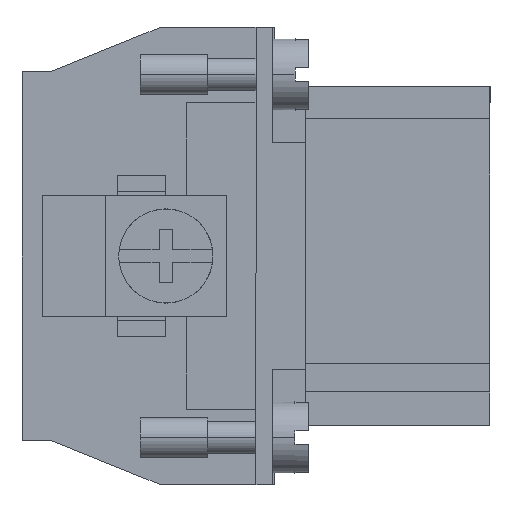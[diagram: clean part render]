
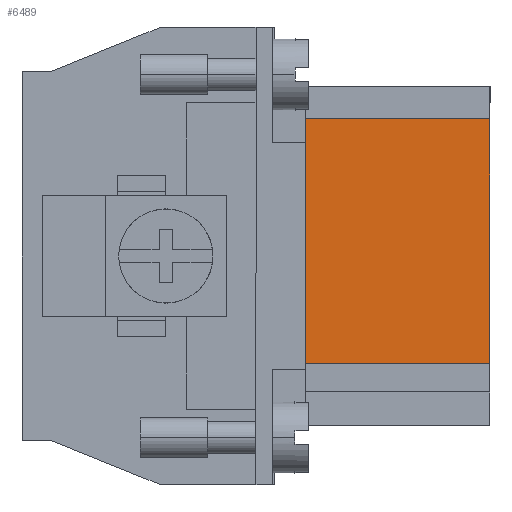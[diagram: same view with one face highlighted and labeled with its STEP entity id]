
A CAD part, left-side view. The second image highlights one B-rep face of the part: STEP entity #6489.
In plain terms, the highlighted planar face has unit normal (-1, 0, 0).
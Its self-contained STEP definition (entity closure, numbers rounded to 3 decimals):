
#267 = DIRECTION ( 'NONE',  ( -1., 0., 0. ) ) ;
#1043 = CARTESIAN_POINT ( 'NONE',  ( -31.55, 0., 10.2 ) ) ;
#1254 = LINE ( 'NONE', #23456, #1880 ) ;
#1831 = ORIENTED_EDGE ( 'NONE', *, *, #7018, .T. ) ;
#1880 = VECTOR ( 'NONE', #10419, 1000. ) ;
#2134 = ORIENTED_EDGE ( 'NONE', *, *, #6287, .F. ) ;
#3120 = CARTESIAN_POINT ( 'NONE',  ( -31.55, 0., -8. ) ) ;
#3375 = CARTESIAN_POINT ( 'NONE',  ( -31.55, -13.7, 10.2 ) ) ;
#5944 = LINE ( 'NONE', #12424, #16509 ) ;
#6287 = EDGE_CURVE ( 'NONE', #12386, #16219, #18172, .T. ) ;
#6489 = ADVANCED_FACE ( 'NONE', ( #16246 ), #19950, .T. ) ;
#7018 = EDGE_CURVE ( 'NONE', #12386, #23476, #5944, .T. ) ;
#7679 = VECTOR ( 'NONE', #21256, 1000. ) ;
#8308 = LINE ( 'NONE', #3375, #7679 ) ;
#9621 = CARTESIAN_POINT ( 'NONE',  ( -31.55, 0., 10.2 ) ) ;
#10419 = DIRECTION ( 'NONE',  ( 0., -1., 0. ) ) ;
#11190 = ORIENTED_EDGE ( 'NONE', *, *, #17807, .F. ) ;
#12386 = VERTEX_POINT ( 'NONE', #3120 ) ;
#12424 = CARTESIAN_POINT ( 'NONE',  ( -31.55, 74.51, -8. ) ) ;
#13603 = DIRECTION ( 'NONE',  ( 0., -1., 0. ) ) ;
#14112 = DIRECTION ( 'NONE',  ( 0., -1., 0. ) ) ;
#14915 = DIRECTION ( 'NONE',  ( 0., 0., 1. ) ) ;
#16093 = VERTEX_POINT ( 'NONE', #24822 ) ;
#16219 = VERTEX_POINT ( 'NONE', #9621 ) ;
#16246 = FACE_OUTER_BOUND ( 'NONE', #24328, .T. ) ;
#16357 = EDGE_CURVE ( 'NONE', #16219, #16093, #1254, .T. ) ;
#16509 = VECTOR ( 'NONE', #13603, 1000. ) ;
#17807 = EDGE_CURVE ( 'NONE', #16093, #23476, #8308, .T. ) ;
#18172 = LINE ( 'NONE', #1043, #22715 ) ;
#18966 = ORIENTED_EDGE ( 'NONE', *, *, #16357, .F. ) ;
#19769 = AXIS2_PLACEMENT_3D ( 'NONE', #23845, #267, #14112 ) ;
#19950 = PLANE ( 'NONE',  #19769 ) ;
#21256 = DIRECTION ( 'NONE',  ( 0., 0., -1. ) ) ;
#22715 = VECTOR ( 'NONE', #14915, 1000. ) ;
#23456 = CARTESIAN_POINT ( 'NONE',  ( -31.55, 74.51, 10.2 ) ) ;
#23476 = VERTEX_POINT ( 'NONE', #24341 ) ;
#23845 = CARTESIAN_POINT ( 'NONE',  ( -31.55, 74.51, 10.2 ) ) ;
#24328 = EDGE_LOOP ( 'NONE', ( #1831, #11190, #18966, #2134 ) ) ;
#24341 = CARTESIAN_POINT ( 'NONE',  ( -31.55, -13.7, -8. ) ) ;
#24822 = CARTESIAN_POINT ( 'NONE',  ( -31.55, -13.7, 10.2 ) ) ;
